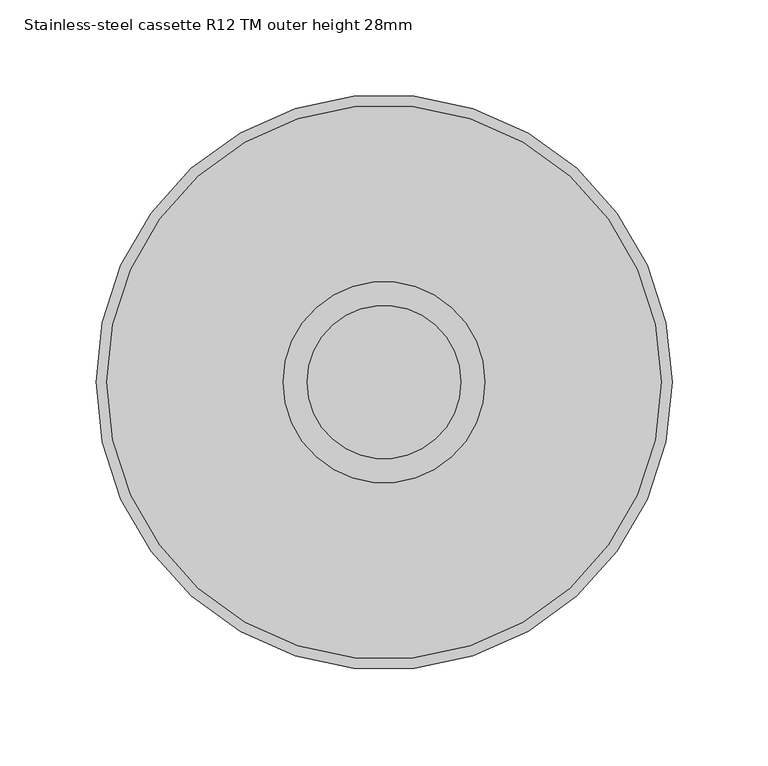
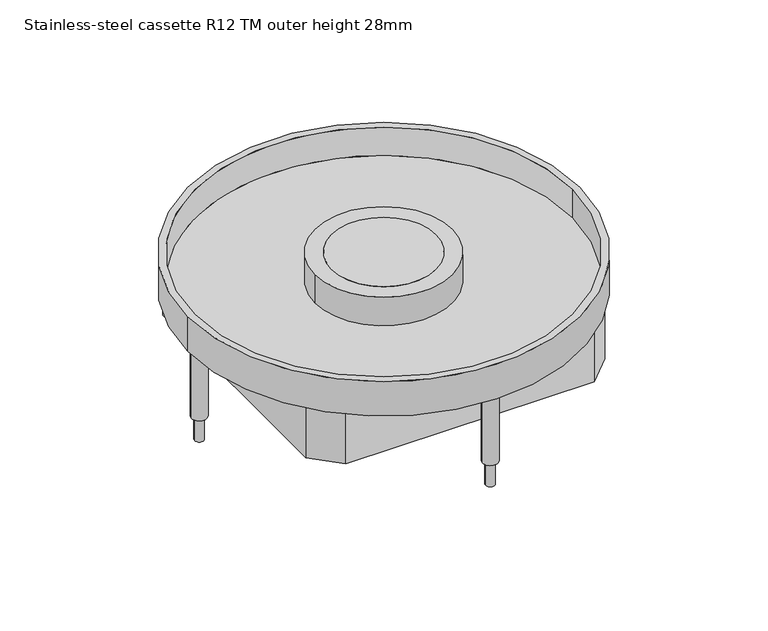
"""IFC4 building model written with IfcOpenShell, lengths in millimetres: proxy geometry, Electrical_Installation_Hager_VE-EE_EKR-Height-adjustable-stainless-steel-cassette-with-tube-mounting-set-round-for-damp-cleaned-floors : Stainless-steel cassette R12 TM outer height 28mm."""

from ifc_helpers import new_model, si_unit, point, frame, frame_2d, origin, origin_with_axes, origin_2d, place, context, project, spatial, polyline, circle_curve, trimmed, segment, composite_curve, outline, extrude, source, transform, mapped, element, save
from ifc_brep_helpers import plane_surface, cylinder_surface, revolved_surface, advanced_brep


def stainless_steel_cassette_r12_tm_outer_height_28mm_dc089dfa(model_context):
    return source(origin(), model_context, "Body", "SolidModel", [
        extrude(outline(composite_curve([segment(trimmed(circle_curve(origin_2d(), 40.0), [point((-40.0, 0.0))], [point((40.0, 0.0))], False, "CARTESIAN"), True, "CONTINUOUS"), segment(trimmed(circle_curve(origin_2d(), 40.0), [point((40.0, 0.0))], [point((-40.0, 0.0))], False, "CARTESIAN"), True, "CONTINUOUS")], self_intersect=False)), origin_with_axes(), (0.0, 0.0, 1.0), 2.011943),
        advanced_brep(
        [(-52.5, 0.0, 2.011943), (52.5, 0.0, 2.011943), (-40.0, 0.0, 2.011943), (40.0, 0.0, 2.011943), (-52.5, 0.0, -20.988057), (52.5, 0.0, -20.988057), (-40.0, 0.0, -20.988057), (40.0, 0.0, -20.988057), (-52.5, 0.0, 0.0), (52.5, 0.0, 0.0), (-40.0, 0.0, 0.0), (40.0, 0.0, 0.0)],
        [
            (0, 1, circle_curve(frame((0.0, 0.0, 2.011943), z_axis=(0.0, 0.0, 1.0), x_axis=(1.0, 0.0, 0.0)), 52.5)),
            (1, 0, circle_curve(frame((0.0, 0.0, 2.011943), z_axis=(0.0, 0.0, 1.0), x_axis=(1.0, 0.0, 0.0)), 52.5)),
            (2, 3, circle_curve(frame((0.0, 0.0, 2.011943), z_axis=(0.0, 0.0, -1.0), x_axis=(1.0, 0.0, 0.0)), 40.0)),
            (3, 2, circle_curve(frame((0.0, 0.0, 2.011943), z_axis=(0.0, 0.0, -1.0), x_axis=(1.0, 0.0, 0.0)), 40.0)),
            (4, 5, circle_curve(frame((0.0, 0.0, -20.988057), z_axis=(0.0, 0.0, -1.0), x_axis=(1.0, 0.0, 0.0)), 52.5)),
            (5, 4, circle_curve(frame((0.0, 0.0, -20.988057), z_axis=(0.0, 0.0, -1.0), x_axis=(1.0, 0.0, 0.0)), 52.5)),
            (6, 7, circle_curve(frame((0.0, 0.0, -20.988057), z_axis=(0.0, 0.0, 1.0), x_axis=(1.0, 0.0, 0.0)), 40.0)),
            (7, 6, circle_curve(frame((0.0, 0.0, -20.988057), z_axis=(0.0, 0.0, 1.0), x_axis=(1.0, 0.0, 0.0)), 40.0)),
            (0, 8),
            (8, 4),
            (5, 9),
            (9, 1),
            (2, 10),
            (10, 6),
            (7, 11),
            (11, 3),
        ],
        [
            plane_surface(frame((52.5, 0.0, 2.011943), z_axis=(0.0, 0.0, 1.0), x_axis=(0.0, 1.0, 0.0))),
            plane_surface(frame((52.5, 0.0, -20.988057), z_axis=(0.0, 0.0, -1.0), x_axis=(0.0, -1.0, 0.0))),
            cylinder_surface(frame((0.0, 0.0, -20.988057), z_axis=(0.0, 0.0, 1.0), x_axis=(1.0, 0.0, 0.0)), 52.5),
            revolved_surface(polyline([(40.0, 0.0, -20.988057), (40.0, 0.0, 2.011943)]), (0.0, 0.0, 0.0), (0.0, 0.0, -1.0)),
        ],
        [
            (0, [[1, 2], [3, 4]]),
            (1, [[5, 6], [7, 8]]),
            (2, [[-1, 9, 10, -6, 11, 12]]),
            (2, [[-2, -12, -11, -5, -10, -9]]),
            (3, [[-3, 13, 14, -8, 15, 16]]),
            (3, [[-4, -16, -15, -7, -14, -13]]),
        ],
    ),
        extrude(outline(composite_curve([segment(trimmed(circle_curve(frame_2d((-141.3, 0.0)), 3.5), [point((-144.8, 0.0))], [point((-137.8, 0.0))], False, "CARTESIAN"), True, "CONTINUOUS"), segment(trimmed(circle_curve(frame_2d((-141.3, 0.0)), 3.5), [point((-137.8, 0.0))], [point((-144.8, 0.0))], False, "CARTESIAN"), True, "CONTINUOUS")], self_intersect=False)), frame((0.0, 0.0, -100.0), z_axis=(0.0, 0.0, 1.0), x_axis=(1.0, 0.0, 0.0)), (0.0, 0.0, 1.0), 74.011943),
        extrude(outline(composite_curve([segment(trimmed(circle_curve(frame_2d((0.0, 141.3)), 3.5), [point((-3.5, 141.3))], [point((3.5, 141.3))], False, "CARTESIAN"), True, "CONTINUOUS"), segment(trimmed(circle_curve(frame_2d((0.0, 141.3)), 3.5), [point((3.5, 141.3))], [point((-3.5, 141.3))], False, "CARTESIAN"), True, "CONTINUOUS")], self_intersect=False)), frame((0.0, 0.0, -100.0), z_axis=(0.0, 0.0, 1.0), x_axis=(1.0, 0.0, 0.0)), (0.0, 0.0, 1.0), 74.011943),
        extrude(outline(composite_curve([segment(trimmed(circle_curve(frame_2d((141.3, 0.0)), 3.548869), [point((137.751131, 0.0))], [point((144.848869, 0.0))], False, "CARTESIAN"), True, "CONTINUOUS"), segment(trimmed(circle_curve(frame_2d((141.3, 0.0)), 3.548869), [point((144.848869, 0.0))], [point((137.751131, 0.0))], False, "CARTESIAN"), True, "CONTINUOUS")], self_intersect=False)), frame((0.0, 0.0, -100.0), z_axis=(0.0, 0.0, 1.0), x_axis=(1.0, 0.0, 0.0)), (0.0, 0.0, 1.0), 74.011943),
        extrude(outline(composite_curve([segment(trimmed(circle_curve(frame_2d((0.0, -141.3)), 3.5), [point((-3.5, -141.3))], [point((3.5, -141.3))], False, "CARTESIAN"), True, "CONTINUOUS"), segment(trimmed(circle_curve(frame_2d((0.0, -141.3)), 3.5), [point((3.5, -141.3))], [point((-3.5, -141.3))], False, "CARTESIAN"), True, "CONTINUOUS")], self_intersect=False)), frame((0.0, 0.0, -100.0), z_axis=(0.0, 0.0, 1.0), x_axis=(1.0, 0.0, 0.0)), (0.0, 0.0, 1.0), 74.011943),
        advanced_brep(
        [(144.5, 0.0, -20.988057), (-144.5, 0.0, -20.988057), (-40.0, 0.0, -20.988057), (40.0, 0.0, -20.988057), (-150.0, 0.0, -25.988057), (150.0, 0.0, -25.988057), (-40.0, 0.0, -25.988057), (40.0, 0.0, -25.988057), (-150.0, 0.0, 2.011943), (150.0, 0.0, 2.011943), (-144.5, 0.0, 2.011943), (144.5, 0.0, 2.011943)],
        [
            (0, 1, circle_curve(frame((0.0, 0.0, -20.988057), z_axis=(0.0, 0.0, 1.0), x_axis=(1.0, 0.0, 0.0)), 144.5)),
            (1, 0, circle_curve(frame((0.0, 0.0, -20.988057), z_axis=(0.0, 0.0, 1.0), x_axis=(1.0, 0.0, 0.0)), 144.5)),
            (2, 3, circle_curve(frame((0.0, 0.0, -20.988057), z_axis=(0.0, 0.0, -1.0), x_axis=(1.0, 0.0, 0.0)), 40.0)),
            (3, 2, circle_curve(frame((0.0, 0.0, -20.988057), z_axis=(0.0, 0.0, -1.0), x_axis=(1.0, 0.0, 0.0)), 40.0)),
            (4, 5, circle_curve(frame((0.0, 0.0, -25.988057), z_axis=(0.0, 0.0, -1.0), x_axis=(1.0, 0.0, 0.0)), 150.0)),
            (5, 4, circle_curve(frame((0.0, 0.0, -25.988057), z_axis=(0.0, 0.0, -1.0), x_axis=(1.0, 0.0, 0.0)), 150.0)),
            (6, 7, circle_curve(frame((0.0, 0.0, -25.988057), z_axis=(0.0, 0.0, 1.0), x_axis=(1.0, 0.0, 0.0)), 40.0)),
            (7, 6, circle_curve(frame((0.0, 0.0, -25.988057), z_axis=(0.0, 0.0, 1.0), x_axis=(1.0, 0.0, 0.0)), 40.0)),
            (8, 9, circle_curve(frame((0.0, 0.0, 2.011943), z_axis=(0.0, 0.0, 1.0), x_axis=(1.0, 0.0, 0.0)), 150.0)),
            (9, 8, circle_curve(frame((0.0, 0.0, 2.011943), z_axis=(0.0, 0.0, 1.0), x_axis=(1.0, 0.0, 0.0)), 150.0)),
            (10, 11, circle_curve(frame((0.0, 0.0, 2.011943), z_axis=(0.0, 0.0, -1.0), x_axis=(1.0, 0.0, 0.0)), 144.5)),
            (11, 10, circle_curve(frame((0.0, 0.0, 2.011943), z_axis=(0.0, 0.0, -1.0), x_axis=(1.0, 0.0, 0.0)), 144.5)),
            (8, 4),
            (5, 9),
            (10, 1),
            (0, 11),
            (2, 6),
            (7, 3),
        ],
        [
            plane_surface(frame((144.5, 0.0, -20.988057), z_axis=(0.0, 0.0, 1.0), x_axis=(0.0, 1.0, 0.0))),
            plane_surface(frame((144.5, 0.0, -25.988057), z_axis=(0.0, 0.0, -1.0), x_axis=(0.0, -1.0, 0.0))),
            plane_surface(frame((150.0, 0.0, 2.011943), z_axis=(0.0, 0.0, 1.0), x_axis=(0.0, 1.0, 0.0))),
            cylinder_surface(frame((0.0, 0.0, -25.988057), z_axis=(0.0, 0.0, 1.0), x_axis=(1.0, 0.0, 0.0)), 150.0),
            revolved_surface(polyline([(144.5, 0.0, -20.988057), (144.5, 0.0, 2.011943)]), (0.0, 0.0, 0.0), (0.0, 0.0, -1.0)),
            revolved_surface(polyline([(40.0, 0.0, -25.988057), (40.0, 0.0, -20.988057)]), (0.0, 0.0, 0.0), (0.0, 0.0, -1.0)),
        ],
        [
            (0, [[1, 2], [3, 4]]),
            (1, [[5, 6], [7, 8]]),
            (2, [[9, 10], [11, 12]]),
            (3, [[-9, 13, -6, 14]]),
            (3, [[-10, -14, -5, -13]]),
            (4, [[-11, 15, -1, 16]]),
            (4, [[-12, -16, -2, -15]]),
            (5, [[-3, 17, -8, 18]]),
            (5, [[-4, -18, -7, -17]]),
        ],
    ),
        extrude(outline(polyline([(94.9818914, 114.5), (114.5, 94.9818914), (114.5, -94.9818914), (94.9818914, -114.5), (-94.9818914, -114.5), (-114.5, -94.9818914), (-114.5, 94.9818914), (-94.9818914, 114.5), (94.9818914, 114.5)]), holes=[polyline([(-111.5, 93.8602374), (-111.5, -93.8602374), (-93.8602374, -111.5), (93.8602374, -111.5), (111.5, -93.8602374), (111.5, 93.8602374), (93.8602374, 111.5), (-93.8602374, 111.5), (-111.5, 93.8602374)])]), frame((0.0, 0.0, -66.9258981), z_axis=(0.0, 0.0, 1.0), x_axis=(1.0, 0.0, 0.0)), (0.0, 0.0, 1.0), 40.9378411),
        extrude(outline(composite_curve([segment(trimmed(circle_curve(frame_2d((0.0, 141.3)), 5.9738904), [point((-5.9738904, 141.3))], [point((5.9738904, 141.3))], False, "CARTESIAN"), True, "CONTINUOUS"), segment(trimmed(circle_curve(frame_2d((0.0, 141.3)), 5.9738904), [point((5.9738904, 141.3))], [point((-5.9738904, 141.3))], False, "CARTESIAN"), True, "CONTINUOUS")], self_intersect=False)), frame((0.0, 0.0, -81.0371838), z_axis=(0.0, 0.0, 1.0), x_axis=(1.0, 0.0, 0.0)), (0.0, 0.0, 1.0), 55.0491267),
        extrude(outline(composite_curve([segment(trimmed(circle_curve(frame_2d((141.3, 0.0)), 6.0), [point((135.3, 0.0))], [point((147.3, 0.0))], False, "CARTESIAN"), True, "CONTINUOUS"), segment(trimmed(circle_curve(frame_2d((141.3, 0.0)), 6.0), [point((147.3, 0.0))], [point((135.3, 0.0))], False, "CARTESIAN"), True, "CONTINUOUS")], self_intersect=False)), frame((0.0, 0.0, -81.0371838), z_axis=(0.0, 0.0, 1.0), x_axis=(1.0, 0.0, 0.0)), (0.0, 0.0, 1.0), 55.0491267),
        extrude(outline(composite_curve([segment(trimmed(circle_curve(frame_2d((0.0, -141.3)), 6.0), [point((-6.0, -141.3))], [point((6.0, -141.3))], False, "CARTESIAN"), True, "CONTINUOUS"), segment(trimmed(circle_curve(frame_2d((0.0, -141.3)), 6.0), [point((6.0, -141.3))], [point((-6.0, -141.3))], False, "CARTESIAN"), True, "CONTINUOUS")], self_intersect=False)), frame((0.0, 0.0, -81.0371838), z_axis=(0.0, 0.0, 1.0), x_axis=(1.0, 0.0, 0.0)), (0.0, 0.0, 1.0), 55.0491267),
        extrude(outline(composite_curve([segment(trimmed(circle_curve(frame_2d((-141.3, 0.0)), 6.0), [point((-147.3, 0.0))], [point((-135.3, 0.0))], False, "CARTESIAN"), True, "CONTINUOUS"), segment(trimmed(circle_curve(frame_2d((-141.3, 0.0)), 6.0), [point((-135.3, 0.0))], [point((-147.3, 0.0))], False, "CARTESIAN"), True, "CONTINUOUS")], self_intersect=False)), frame((0.0, 0.0, -81.0371838), z_axis=(0.0, 0.0, 1.0), x_axis=(1.0, 0.0, 0.0)), (0.0, 0.0, 1.0), 55.0491267),
    ])


if __name__ == "__main__":
    model = new_model("IFC4")
    model_context = context("Model", 3, world=origin())
    ifc_project = project(units=[si_unit("LENGTHUNIT", "METRE", prefix="MILLI")], contexts=[model_context])
    site = spatial("IfcSite", under=ifc_project)
    building = spatial("IfcBuilding", under=site)
    placement = place(None, origin())
    stainless_steel_cassette_r12_tm_outer_height_28mm_shape = stainless_steel_cassette_r12_tm_outer_height_28mm_dc089dfa(model_context)
    element("IfcBuildingElementProxy", 1, Name="Electrical_Installation_Hager_VE-EE_EKR-Height-adjustable-stainless-steel-cassette-with-tube-mounting-set-round-for-damp-cleaned-floors : Stainless-steel cassette R12 TM outer height 28mm", ObjectType="Electrical_Installation_Hager_VE-EE_EKR-Height-adjustable-stainless-steel-cassette-with-tube-mounting-set-round-for-damp-cleaned-floors : Stainless-steel cassette R12 TM outer height 28mm", at=placement, inside=building, context=model_context, shape_type="MappedRepresentation", body=[
        mapped(stainless_steel_cassette_r12_tm_outer_height_28mm_shape, transform((0.0, 0.0, 0.0), x_axis=(1.0, 0.0, 0.0), y_axis=(0.0, 1.0, 0.0), z_axis=(0.0, 0.0, 1.0))),
    ])
    save(model, "model.ifc")
